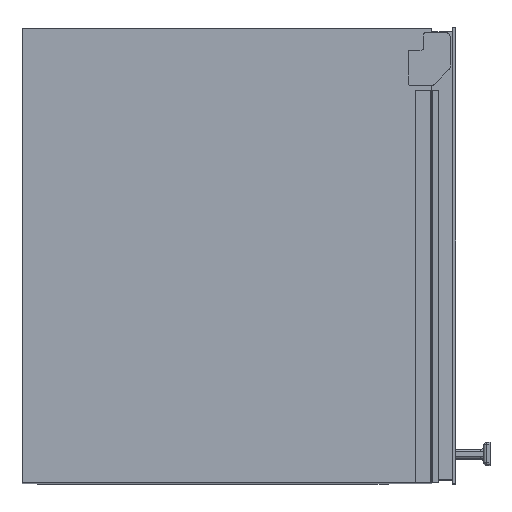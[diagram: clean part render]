
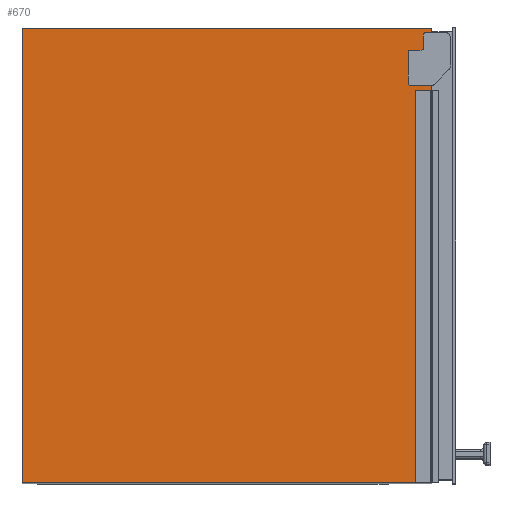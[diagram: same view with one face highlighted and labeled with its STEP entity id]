
A CAD part, top view. The second image highlights one B-rep face of the part: STEP entity #670.
In plain terms, the highlighted planar face has unit normal (0, 0, 1).
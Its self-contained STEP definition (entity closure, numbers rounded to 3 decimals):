
#211=CIRCLE('',#3829,5.);
#212=CIRCLE('',#3830,3.);
#213=CIRCLE('',#3831,3.);
#214=CIRCLE('',#3832,3.);
#215=CIRCLE('',#3833,3.);
#670=ADVANCED_FACE('',(#996),#822,.F.);
#822=PLANE('',#3834);
#996=FACE_OUTER_BOUND('',#1203,.T.);
#1203=EDGE_LOOP('',(#1923,#1924,#1925,#1926,#1927,#1928,#1929,#1930,#1931,
#1932,#1933,#1934,#1935,#1936,#1937,#1938,#1939,#1940,#1941));
#1923=ORIENTED_EDGE('',*,*,#2859,.F.);
#1924=ORIENTED_EDGE('',*,*,#2860,.F.);
#1925=ORIENTED_EDGE('',*,*,#2861,.T.);
#1926=ORIENTED_EDGE('',*,*,#2862,.T.);
#1927=ORIENTED_EDGE('',*,*,#2863,.F.);
#1928=ORIENTED_EDGE('',*,*,#2864,.T.);
#1929=ORIENTED_EDGE('',*,*,#2865,.T.);
#1930=ORIENTED_EDGE('',*,*,#2866,.T.);
#1931=ORIENTED_EDGE('',*,*,#2867,.T.);
#1932=ORIENTED_EDGE('',*,*,#2868,.T.);
#1933=ORIENTED_EDGE('',*,*,#2869,.T.);
#1934=ORIENTED_EDGE('',*,*,#2870,.T.);
#1935=ORIENTED_EDGE('',*,*,#2871,.T.);
#1936=ORIENTED_EDGE('',*,*,#2872,.T.);
#1937=ORIENTED_EDGE('',*,*,#2873,.T.);
#1938=ORIENTED_EDGE('',*,*,#2874,.F.);
#1939=ORIENTED_EDGE('',*,*,#2875,.F.);
#1940=ORIENTED_EDGE('',*,*,#2876,.T.);
#1941=ORIENTED_EDGE('',*,*,#2877,.T.);
#2437=VERTEX_POINT('',#5961);
#2438=VERTEX_POINT('',#5962);
#2439=VERTEX_POINT('',#5964);
#2440=VERTEX_POINT('',#5966);
#2441=VERTEX_POINT('',#5968);
#2442=VERTEX_POINT('',#5970);
#2443=VERTEX_POINT('',#5972);
#2444=VERTEX_POINT('',#5974);
#2445=VERTEX_POINT('',#5976);
#2446=VERTEX_POINT('',#5978);
#2447=VERTEX_POINT('',#5980);
#2448=VERTEX_POINT('',#5982);
#2449=VERTEX_POINT('',#5984);
#2450=VERTEX_POINT('',#5986);
#2451=VERTEX_POINT('',#5988);
#2452=VERTEX_POINT('',#5990);
#2453=VERTEX_POINT('',#5992);
#2454=VERTEX_POINT('',#5994);
#2455=VERTEX_POINT('',#5996);
#2859=EDGE_CURVE('',#2437,#2438,#3206,.T.);
#2860=EDGE_CURVE('',#2439,#2437,#3207,.T.);
#2861=EDGE_CURVE('',#2439,#2440,#3208,.T.);
#2862=EDGE_CURVE('',#2440,#2441,#3209,.T.);
#2863=EDGE_CURVE('',#2442,#2441,#3210,.T.);
#2864=EDGE_CURVE('',#2442,#2443,#211,.T.);
#2865=EDGE_CURVE('',#2443,#2444,#3211,.T.);
#2866=EDGE_CURVE('',#2444,#2445,#212,.T.);
#2867=EDGE_CURVE('',#2445,#2446,#3212,.T.);
#2868=EDGE_CURVE('',#2446,#2447,#213,.T.);
#2869=EDGE_CURVE('',#2447,#2448,#3213,.T.);
#2870=EDGE_CURVE('',#2448,#2449,#214,.T.);
#2871=EDGE_CURVE('',#2449,#2450,#3214,.T.);
#2872=EDGE_CURVE('',#2450,#2451,#215,.T.);
#2873=EDGE_CURVE('',#2451,#2452,#3215,.T.);
#2874=EDGE_CURVE('',#2453,#2452,#3216,.T.);
#2875=EDGE_CURVE('',#2454,#2453,#3217,.T.);
#2876=EDGE_CURVE('',#2454,#2455,#3218,.T.);
#2877=EDGE_CURVE('',#2455,#2438,#3219,.T.);
#3206=LINE('',#5960,#3509);
#3207=LINE('',#5963,#3510);
#3208=LINE('',#5965,#3511);
#3209=LINE('',#5967,#3512);
#3210=LINE('',#5969,#3513);
#3211=LINE('',#5973,#3514);
#3212=LINE('',#5977,#3515);
#3213=LINE('',#5981,#3516);
#3214=LINE('',#5985,#3517);
#3215=LINE('',#5989,#3518);
#3216=LINE('',#5991,#3519);
#3217=LINE('',#5993,#3520);
#3218=LINE('',#5995,#3521);
#3219=LINE('',#5997,#3522);
#3509=VECTOR('',#4602,1.);
#3510=VECTOR('',#4603,1.);
#3511=VECTOR('',#4604,1.);
#3512=VECTOR('',#4605,1.);
#3513=VECTOR('',#4606,1.);
#3514=VECTOR('',#4609,1.);
#3515=VECTOR('',#4612,1.);
#3516=VECTOR('',#4615,1.);
#3517=VECTOR('',#4618,1.);
#3518=VECTOR('',#4621,1.);
#3519=VECTOR('',#4622,1.);
#3520=VECTOR('',#4623,1.);
#3521=VECTOR('',#4624,1.);
#3522=VECTOR('',#4625,1.);
#3829=AXIS2_PLACEMENT_3D('',#5971,#4607,#4608);
#3830=AXIS2_PLACEMENT_3D('',#5975,#4610,#4611);
#3831=AXIS2_PLACEMENT_3D('',#5979,#4613,#4614);
#3832=AXIS2_PLACEMENT_3D('',#5983,#4616,#4617);
#3833=AXIS2_PLACEMENT_3D('',#5987,#4619,#4620);
#3834=AXIS2_PLACEMENT_3D('',#5998,#4626,#4627);
#4602=DIRECTION('',(0.,-1.,0.));
#4603=DIRECTION('',(-1.,0.,0.));
#4604=DIRECTION('',(0.,-1.,0.));
#4605=DIRECTION('',(1.,0.,0.));
#4606=DIRECTION('',(0.,-1.,0.));
#4607=DIRECTION('',(0.,0.,-1.));
#4608=DIRECTION('',(0.,1.,0.));
#4609=DIRECTION('',(-1.,0.,0.));
#4610=DIRECTION('',(0.,0.,-1.));
#4611=DIRECTION('',(0.,1.,0.));
#4612=DIRECTION('',(0.,1.,0.));
#4613=DIRECTION('',(0.,0.,-1.));
#4614=DIRECTION('',(0.,1.,0.));
#4615=DIRECTION('',(1.,0.,0.));
#4616=DIRECTION('',(0.,0.,1.));
#4617=DIRECTION('',(0.,1.,0.));
#4618=DIRECTION('',(0.,1.,0.));
#4619=DIRECTION('',(0.,0.,-1.));
#4620=DIRECTION('',(0.,1.,0.));
#4621=DIRECTION('',(1.,0.,0.));
#4622=DIRECTION('',(0.,-1.,0.));
#4623=DIRECTION('',(1.,0.,0.));
#4624=DIRECTION('',(0.,-1.,0.));
#4625=DIRECTION('',(1.,0.,0.));
#4626=DIRECTION('',(0.,0.,-1.));
#4627=DIRECTION('',(1.,0.,0.));
#5960=CARTESIAN_POINT('',(-45.8,216.5,800.));
#5961=CARTESIAN_POINT('',(-45.8,216.5,800.));
#5962=CARTESIAN_POINT('',(-45.8,-297.5,800.));
#5963=CARTESIAN_POINT('',(-25.8,216.5,800.));
#5964=CARTESIAN_POINT('',(-25.8,216.5,800.));
#5965=CARTESIAN_POINT('',(-25.8,216.5,800.));
#5966=CARTESIAN_POINT('',(-25.8,-297.5,800.));
#5967=CARTESIAN_POINT('',(-560.,-297.5,800.));
#5968=CARTESIAN_POINT('',(-24.,-297.5,800.));
#5969=CARTESIAN_POINT('',(-24.,297.5,800.));
#5970=CARTESIAN_POINT('',(-24.,222.501,800.));
#5971=CARTESIAN_POINT('',(-24.071,227.5,800.));
#5972=CARTESIAN_POINT('',(-24.071,222.5,800.));
#5973=CARTESIAN_POINT('',(-24.071,222.5,800.));
#5974=CARTESIAN_POINT('',(-52.,222.5,800.));
#5975=CARTESIAN_POINT('',(-52.,225.5,800.));
#5976=CARTESIAN_POINT('',(-55.,225.5,800.));
#5977=CARTESIAN_POINT('',(-55.,225.5,800.));
#5978=CARTESIAN_POINT('',(-55.,265.5,800.));
#5979=CARTESIAN_POINT('',(-52.,265.5,800.));
#5980=CARTESIAN_POINT('',(-52.,268.5,800.));
#5981=CARTESIAN_POINT('',(-52.,268.5,800.));
#5982=CARTESIAN_POINT('',(-38.,268.5,800.));
#5983=CARTESIAN_POINT('',(-38.,271.5,800.));
#5984=CARTESIAN_POINT('',(-35.,271.5,800.));
#5985=CARTESIAN_POINT('',(-35.,271.5,800.));
#5986=CARTESIAN_POINT('',(-35.,288.5,800.));
#5987=CARTESIAN_POINT('',(-32.,288.5,800.));
#5988=CARTESIAN_POINT('',(-32.,291.5,800.));
#5989=CARTESIAN_POINT('',(-32.,291.5,800.));
#5990=CARTESIAN_POINT('',(-24.,291.5,800.));
#5991=CARTESIAN_POINT('',(-24.,297.5,800.));
#5992=CARTESIAN_POINT('',(-24.,297.5,800.));
#5993=CARTESIAN_POINT('',(-560.,297.5,800.));
#5994=CARTESIAN_POINT('',(-560.,297.5,800.));
#5995=CARTESIAN_POINT('',(-560.,297.5,800.));
#5996=CARTESIAN_POINT('',(-560.,-297.5,800.));
#5997=CARTESIAN_POINT('',(-560.,-297.5,800.));
#5998=CARTESIAN_POINT('',(-560.,297.5,800.));
